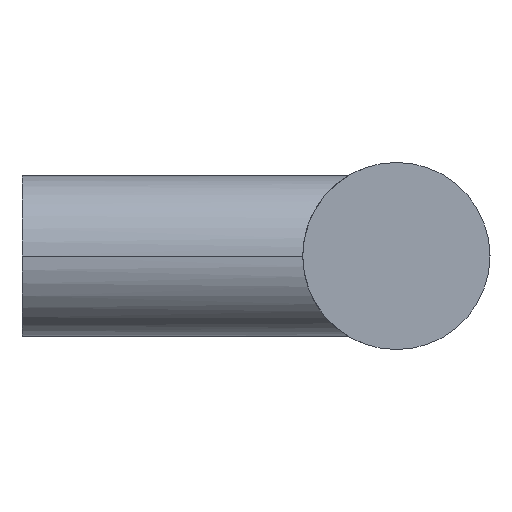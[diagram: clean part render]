
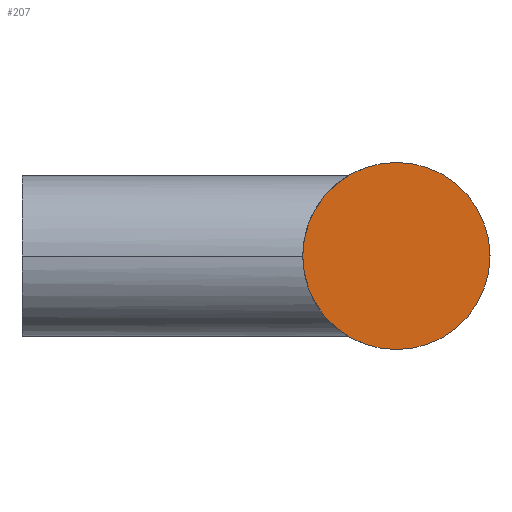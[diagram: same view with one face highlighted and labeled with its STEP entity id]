
A CAD part, left-side view. The second image highlights one B-rep face of the part: STEP entity #207.
In plain terms, the highlighted planar face has unit normal (-1, 0, 0).
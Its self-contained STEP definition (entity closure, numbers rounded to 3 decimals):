
#111 = EDGE_CURVE( '', #149, #233, #271, .T. );
#113 = EDGE_CURVE( '', #233, #149, #273, .T. );
#149 = VERTEX_POINT( '', #320 );
#207 = ADVANCED_FACE( '', ( #384 ), #385, .F. );
#233 = VERTEX_POINT( '', #411 );
#271 = CIRCLE( '', #446, 7. );
#273 = CIRCLE( '', #449, 7. );
#320 = CARTESIAN_POINT( '', ( -30., -28., -7. ) );
#384 = FACE_OUTER_BOUND( '', #682, .T. );
#385 = PLANE( '', #683 );
#411 = CARTESIAN_POINT( '', ( -30., -28., 7. ) );
#446 = AXIS2_PLACEMENT_3D( '', #780, #781, #782 );
#449 = AXIS2_PLACEMENT_3D( '', #783, #784, #785 );
#682 = EDGE_LOOP( '', ( #928, #929 ) );
#683 = AXIS2_PLACEMENT_3D( '', #930, #931, #932 );
#780 = CARTESIAN_POINT( '', ( -30., -28., 0. ) );
#781 = DIRECTION( '', ( 1., 0., 0. ) );
#782 = DIRECTION( '', ( 0., 0., -1. ) );
#783 = CARTESIAN_POINT( '', ( -30., -28., 0. ) );
#784 = DIRECTION( '', ( 1., 0., 0. ) );
#785 = DIRECTION( '', ( 0., 0., -1. ) );
#928 = ORIENTED_EDGE( '', *, *, #111, .F. );
#929 = ORIENTED_EDGE( '', *, *, #113, .F. );
#930 = CARTESIAN_POINT( '', ( -30., 0., 0. ) );
#931 = DIRECTION( '', ( 1., 0., 0. ) );
#932 = DIRECTION( '', ( 0., 0., -1. ) );
